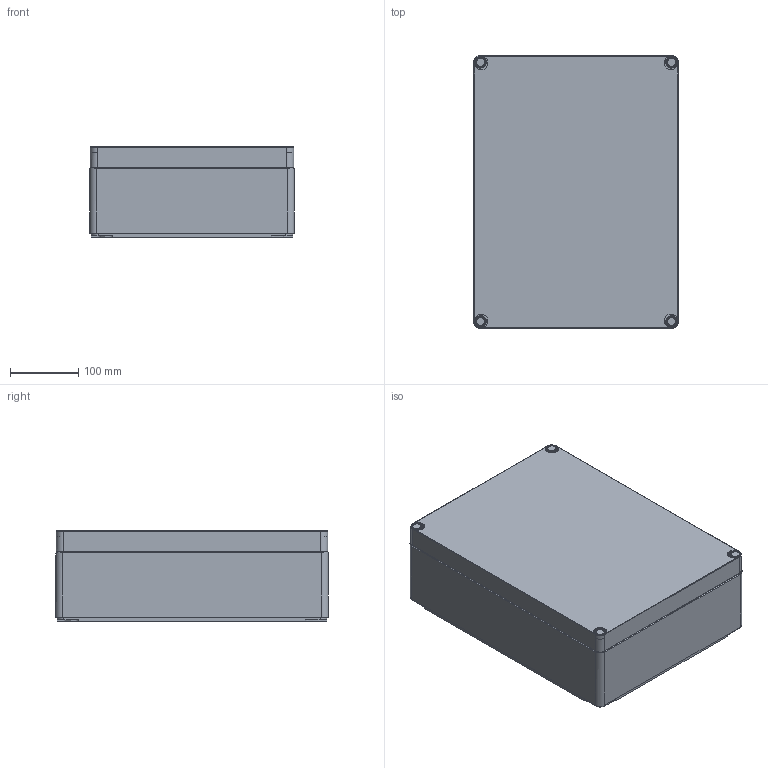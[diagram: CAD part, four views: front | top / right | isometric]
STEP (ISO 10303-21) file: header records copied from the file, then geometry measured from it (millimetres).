
FILE_DESCRIPTION((''),'1');
FILE_NAME('38','2001-04-17T',('jlue'),(''),'PRO/ENGINEER BY PARAMETRIC TECHNOLOGY CORPORATION, 9846','PRO/ENGINEER BY PARAMETRIC TECHNOLOGY CORPORATION, 9846','');
FILE_SCHEMA(('CONFIG_CONTROL_DESIGN'));
Length unit declared in the file: millimetre
Products named in the file (1): 38
Bounding box: 300 x 400 x 132 mm (x, y, z)
Surface area: 846901.7 mm2 (no closed solid volume)
Topology: 0 solids, 0 shells, 598 faces, 2984 edges, 3068 vertices
Faces by surface type: cylinder 296, plane 282, torus 20
Entity records: 15508 total; most frequent: DIRECTION 3348, COMPOSITE_CURVE_SEGMENT 2840, CARTESIAN_POINT 2218, TRIMMED_CURVE 1516, AXIS2_PLACEMENT_3D 1234, VECTOR 880, LINE 880, CIRCLE 636
